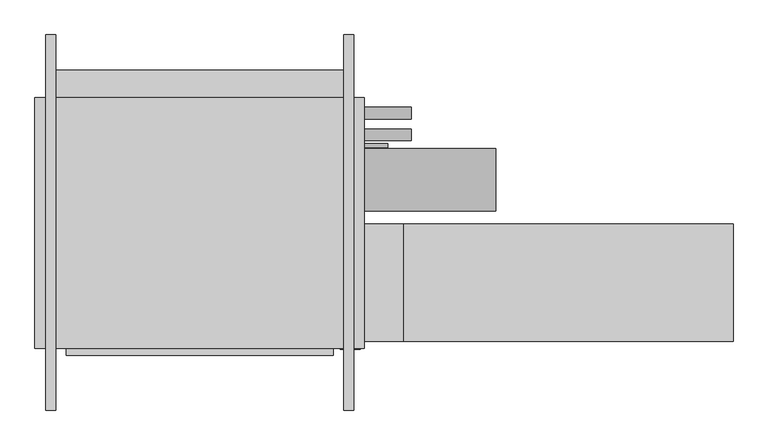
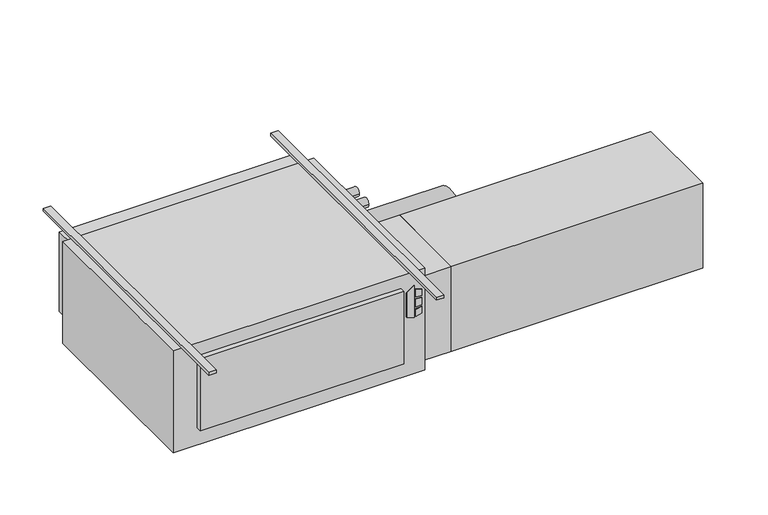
"""IFC4 building model written with IfcOpenShell, lengths in millimetres: proxy geometry."""

from ifc_helpers import new_model, si_unit, point, frame, frame_2d, origin, origin_with_axes, place, context, project, spatial, polyline, circle_curve, trimmed, segment, composite_curve, outline, extrude, source, transform, mapped, element, save


def mechanical_equipment_ca845f7f(model_context):
    return source(origin(), model_context, "Body", "SweptSolid", [
        extrude(outline(polyline([(-193.2519297, 608.0868862), (-203.2, 640.2602728), (-61.0290756, 640.2602728), (-84.0510817, 608.0868862), (-193.2519297, 608.0868862)])), frame((0.0, -647.7, 0.0), z_axis=(0.0, 1.0, 0.0), x_axis=(0.0, 0.0, 1.0)), (0.0, 0.0, 1.0), 3.175),
        extrude(outline(polyline([(-114.2526443, 647.0186058), (-117.4550368, 673.1), (-88.2261958, 673.1), (-80.1617807, 647.0186058), (-114.2526443, 647.0186058)])), frame((0.0, -647.7, 0.0), z_axis=(0.0, 1.0, 0.0), x_axis=(0.0, 0.0, 1.0)), (0.0, 0.0, 1.0), 3.175),
        extrude(outline(polyline([(-166.1161712, 673.1), (-169.7816721, 647.0186058), (-203.2, 647.0186058), (-194.5657628, 673.1), (-166.1161712, 673.1)])), frame((0.0, -647.7, 0.0), z_axis=(0.0, 1.0, 0.0), x_axis=(0.0, 0.0, 1.0)), (0.0, 0.0, 1.0), 3.175),
        extrude(outline(polyline([(-126.8010097, 673.1), (-124.5191834, 647.0186058), (-160.4567319, 647.0186058), (-157.7154669, 673.1), (-126.8010097, 673.1)])), frame((0.0, -647.7, 0.0), z_axis=(0.0, 1.0, 0.0), x_axis=(0.0, 0.0, 1.0)), (0.0, 0.0, 1.0), 3.175),
        extrude(outline(polyline([(584.2, -666.877), (-279.4, -666.877), (-279.4, -644.525), (584.2, -644.525), (584.2, -666.877)])), frame((0.0, 0.0, -381.0), z_axis=(0.0, 0.0, 1.0), x_axis=(1.0, 0.0, 0.0)), (0.0, 0.0, 1.0), 323.85),
        extrude(outline(polyline([(1879.6, -241.3), (1879.6, -622.3), (812.8, -622.3), (812.8, -241.3), (1879.6, -241.3)])), frame((0.0, 0.0, -431.8), z_axis=(0.0, 0.0, 1.0), x_axis=(1.0, 0.0, 0.0)), (0.0, 0.0, 1.0), 381.0),
        extrude(outline(polyline([(812.8, -241.3), (812.8, -622.3), (685.8, -622.3), (685.8, -241.3), (812.8, -241.3)])), frame((0.0, 0.0, -431.8), z_axis=(0.0, 0.0, 1.0), x_axis=(1.0, 0.0, 0.0)), (0.0, 0.0, 1.0), 381.0),
        extrude(outline(composite_curve([segment(trimmed(circle_curve(frame_2d((117.475, -171.45)), 19.05), [point((136.525, -171.45))], [point((98.425, -171.45))], False, "CARTESIAN"), True, "CONTINUOUS"), segment(trimmed(circle_curve(frame_2d((117.475, -171.45)), 19.05), [point((98.425, -171.45))], [point((136.525, -171.45))], False, "CARTESIAN"), True, "CONTINUOUS")], self_intersect=False)), frame((685.8, 0.0, 0.0), z_axis=(1.0, 0.0, 0.0), x_axis=(0.0, 1.0, 0.0)), (0.0, 0.0, 1.0), 152.4),
        extrude(outline(composite_curve([segment(trimmed(circle_curve(frame_2d((47.625, -177.8)), 19.05), [point((66.675, -177.8))], [point((28.575, -177.8))], False, "CARTESIAN"), True, "CONTINUOUS"), segment(trimmed(circle_curve(frame_2d((47.625, -177.8)), 19.05), [point((28.575, -177.8))], [point((66.675, -177.8))], False, "CARTESIAN"), True, "CONTINUOUS")], self_intersect=False)), frame((685.8, 0.0, 0.0), z_axis=(1.0, 0.0, 0.0), x_axis=(0.0, 1.0, 0.0)), (0.0, 0.0, 1.0), 152.4),
        extrude(outline(composite_curve([segment(trimmed(circle_curve(frame_2d((-98.4896516, -228.6360165)), 101.6), [point((3.1103484, -228.6360165))], [point((-200.0896516, -228.6360165))], False, "CARTESIAN"), True, "CONTINUOUS"), segment(trimmed(circle_curve(frame_2d((-98.4896516, -228.6360165)), 101.6), [point((-200.0896516, -228.6360165))], [point((3.1103484, -228.6360165))], False, "CARTESIAN"), True, "CONTINUOUS")], self_intersect=False)), frame((685.8, 0.0, 0.0), z_axis=(1.0, 0.0, 0.0), x_axis=(0.0, 1.0, 0.0)), (0.0, 0.0, 1.0), 425.45),
        extrude(outline(composite_curve([segment(trimmed(circle_curve(frame_2d((12.7, -409.575)), 6.35), [point((19.05, -409.575))], [point((6.35, -409.575))], False, "CARTESIAN"), True, "CONTINUOUS"), segment(trimmed(circle_curve(frame_2d((12.7, -409.575)), 6.35), [point((6.35, -409.575))], [point((19.05, -409.575))], False, "CARTESIAN"), True, "CONTINUOUS")], self_intersect=False)), frame((685.8, 0.0, 0.0), z_axis=(1.0, 0.0, 0.0), x_axis=(0.0, 1.0, 0.0)), (0.0, 0.0, 1.0), 76.2),
        extrude(outline(polyline([(685.8, 168.275), (685.8, -644.525), (-381.0, -644.525), (-381.0, 168.275), (685.8, 168.275)])), frame((0.0, 0.0, -457.2), z_axis=(0.0, 0.0, 1.0), x_axis=(1.0, 0.0, 0.0)), (0.0, 0.0, 1.0), 457.2),
        extrude(outline(polyline([(-342.9, 257.175), (647.7, 257.175), (647.7, 168.275), (-342.9, 168.275), (-342.9, 257.175)])), frame((0.0, 0.0, -381.0), z_axis=(0.0, 0.0, 1.0), x_axis=(1.0, 0.0, 0.0)), (0.0, 0.0, 1.0), 355.6),
        extrude(outline(polyline([(-314.325, 371.475), (-314.325, -844.677), (-346.075, -844.677), (-346.075, 371.475), (-314.325, 371.475)])), origin_with_axes(), (0.0, 0.0, 1.0), 12.7),
        extrude(outline(polyline([(650.875, 371.475), (650.875, -844.677), (619.125, -844.677), (619.125, 371.475), (650.875, 371.475)])), origin_with_axes(), (0.0, 0.0, 1.0), 12.7),
    ])


if __name__ == "__main__":
    model = new_model("IFC4")
    model_context = context("Model", 3, world=origin())
    ifc_project = project(units=[si_unit("LENGTHUNIT", "METRE", prefix="MILLI")], contexts=[model_context])
    site = spatial("IfcSite", under=ifc_project)
    building = spatial("IfcBuilding", under=site)
    placement = place(None, origin())
    mechanical_equipment_shape = mechanical_equipment_ca845f7f(model_context)
    element("IfcBuildingElementProxy", 1, Name="High_Capacity_Horizontal_Cabinet_Fan_Coil_Unit_-_HTY_-_IEC_-_2-Pipe_WO-Attenuator_RH Side_2022 : Size 14 - 277v/60Hz/1Ph - 8/0 Coil - 8\" AirIn", ObjectType="High_Capacity_Horizontal_Cabinet_Fan_Coil_Unit_-_HTY_-_IEC_-_2-Pipe_WO-Attenuator_RH Side_2022 : Size 14 - 277v/60Hz/1Ph - 8/0 Coil - 8\" AirIn", at=placement, inside=building, context=model_context, shape_type="MappedRepresentation", body=[
        mapped(mechanical_equipment_shape, transform((0.0, 0.0, 0.0), x_axis=(1.0, 0.0, 0.0), y_axis=(0.0, 1.0, 0.0), z_axis=(0.0, 0.0, 1.0))),
    ])
    save(model, "model.ifc")
